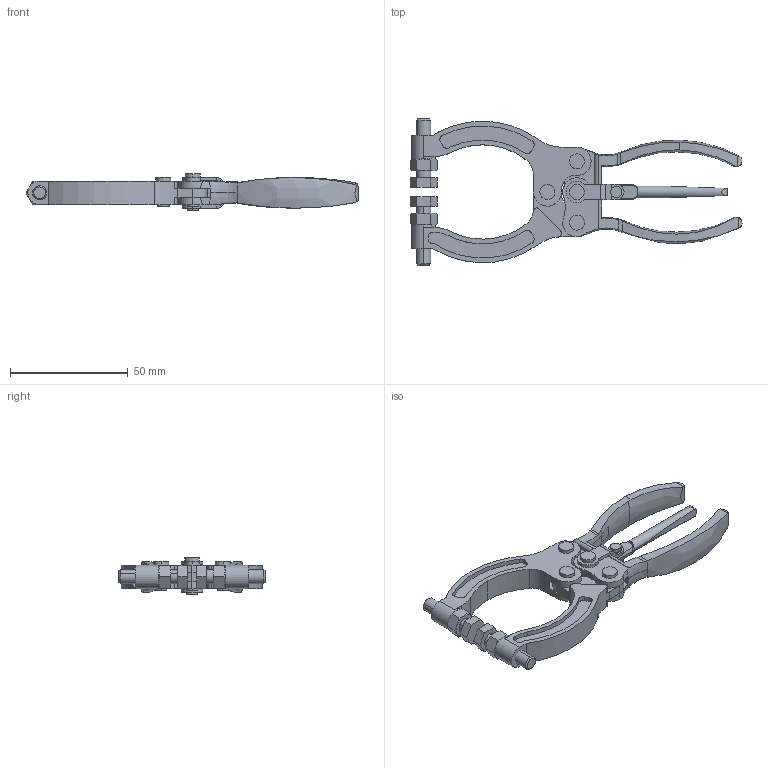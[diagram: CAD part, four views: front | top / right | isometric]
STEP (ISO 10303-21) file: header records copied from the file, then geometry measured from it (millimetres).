
FILE_DESCRIPTION (( 'STEP AP203' ), '1' );
FILE_NAME ('KFA-25.step', '2011-05-12T14:47:19', ( 'Usuario' ), ( '' ), 'SwSTEP 2.0', 'SolidWorks 2011', '' );
FILE_SCHEMA (( 'CONFIG_CONTROL_DESIGN' ));
Length unit declared in the file: millimetre
Products named in the file (12): KFA-25; 11.50001; 12.50006; 06.50048; 06.50035; 06.50001; 18.10014; 18.30002; 03.30007; 03.30006; 01.30007; 01.30006
Assembly tree (16 placements, depth 2):
  KFA-25
    11.50001  x2
    18.10014  x2
    03.30007
    12.50006  x2
    06.50001
    18.30002
    06.50035  x3
    06.50048
    01.30007
    01.30006
    03.30006
Bounding box: 140.77 x 62 x 15.5 mm (x, y, z)
Volume: 27910.5 mm3; surface area: 21004.9 mm2
Topology: 16 solids, 16 shells, 423 faces, 1053 edges, 669 vertices
Faces by surface type: cylinder 211, plane 150, cone 44, bspline 18
Entity records: 12475 total; most frequent: CARTESIAN_POINT 2911, DIRECTION 1727, ORIENTED_EDGE 1718, EDGE_CURVE 859, AXIS2_PLACEMENT_3D 681, VERTEX_POINT 557, EDGE_LOOP 380, LINE 365
